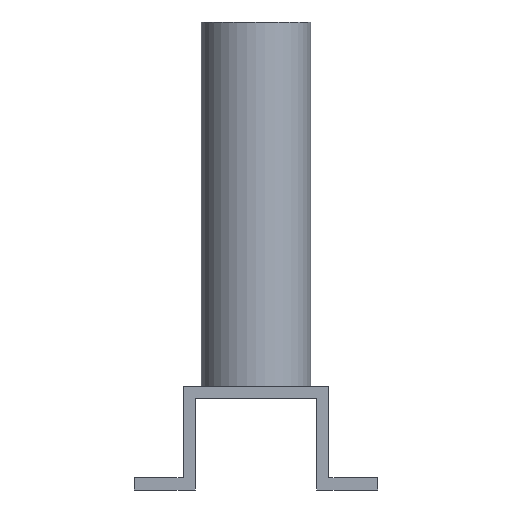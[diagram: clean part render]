
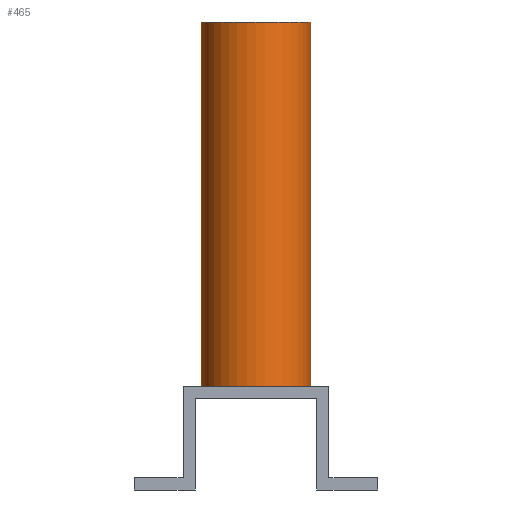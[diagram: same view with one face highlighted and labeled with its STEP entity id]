
A CAD part, front view. The second image highlights one B-rep face of the part: STEP entity #465.
In plain terms, the highlighted cylindrical face has radius 18 mm (diameter 36 mm), a full revolution.
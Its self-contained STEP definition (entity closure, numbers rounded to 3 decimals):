
#71=B_SPLINE_CURVE_WITH_KNOTS('',3,(#754,#755,#756,#757,#758,#759,#760,
#761,#762,#763,#764),.UNSPECIFIED.,.T.,.F.,(1,1,1,1,1,1,1,1,1,1,1,1,1,1,
1),(-0.007,-0.005,-0.002,0.,
0.002,0.005,0.007,0.009,
0.012,0.014,0.016,0.019,
0.021,0.023,0.026),.UNSPECIFIED.);
#73=CYLINDRICAL_SURFACE('',#510,18.);
#85=CIRCLE('',#499,18.);
#90=CIRCLE('',#511,18.);
#174=ORIENTED_EDGE('',*,*,#238,.F.);
#175=ORIENTED_EDGE('',*,*,#219,.T.);
#176=ORIENTED_EDGE('',*,*,#239,.T.);
#219=EDGE_CURVE('',#263,#263,#85,.T.);
#238=EDGE_CURVE('',#276,#276,#71,.T.);
#239=EDGE_CURVE('',#277,#277,#90,.T.);
#263=VERTEX_POINT('',#716);
#276=VERTEX_POINT('',#765);
#277=VERTEX_POINT('',#767);
#376=EDGE_LOOP('',(#174));
#377=EDGE_LOOP('',(#175));
#378=EDGE_LOOP('',(#176));
#418=FACE_BOUND('',#376,.T.);
#419=FACE_BOUND('',#377,.T.);
#420=FACE_BOUND('',#378,.T.);
#465=ADVANCED_FACE('',(#418,#419,#420),#73,.T.);
#499=AXIS2_PLACEMENT_3D('',#715,#586,#587);
#510=AXIS2_PLACEMENT_3D('',#753,#622,#623);
#511=AXIS2_PLACEMENT_3D('',#766,#624,#625);
#586=DIRECTION('',(0.,0.,1.));
#587=DIRECTION('',(1.,0.,0.));
#622=DIRECTION('',(0.,0.,-1.));
#623=DIRECTION('',(-1.,0.,0.));
#624=DIRECTION('',(0.,0.,-1.));
#625=DIRECTION('',(1.,0.,0.));
#715=CARTESIAN_POINT('',(0.,0.,34.));
#716=CARTESIAN_POINT('',(18.,0.,34.));
#753=CARTESIAN_POINT('',(0.,0.,154.));
#754=CARTESIAN_POINT('',(2.353,17.875,97.651));
#755=CARTESIAN_POINT('',(-0.001,18.063,96.675));
#756=CARTESIAN_POINT('',(-2.351,17.875,97.651));
#757=CARTESIAN_POINT('',(-3.324,17.685,99.997));
#758=CARTESIAN_POINT('',(-2.352,17.875,102.351));
#759=CARTESIAN_POINT('',(-0.001,18.062,103.324));
#760=CARTESIAN_POINT('',(2.348,17.875,102.353));
#761=CARTESIAN_POINT('',(3.325,17.685,100.003));
#762=CARTESIAN_POINT('',(2.353,17.875,97.651));
#763=CARTESIAN_POINT('',(-0.001,18.063,96.675));
#764=CARTESIAN_POINT('',(-2.351,17.875,97.651));
#765=CARTESIAN_POINT('',(0.,18.,97.));
#766=CARTESIAN_POINT('',(0.,0.,154.));
#767=CARTESIAN_POINT('',(18.,0.,154.));
